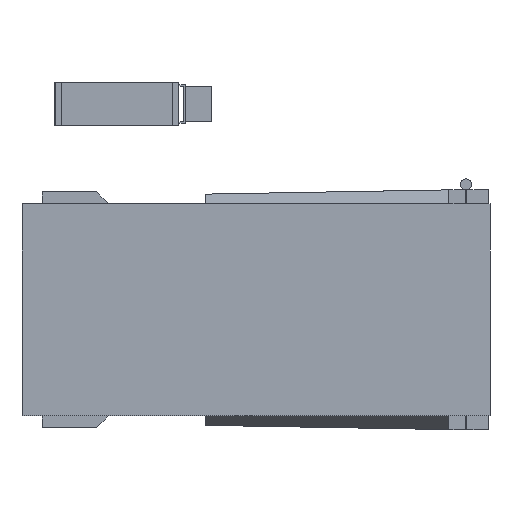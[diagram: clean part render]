
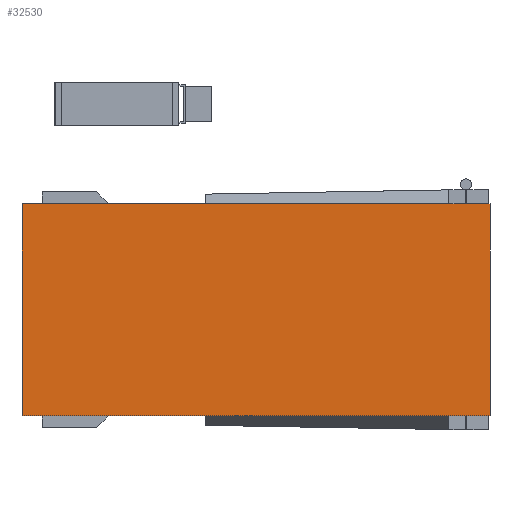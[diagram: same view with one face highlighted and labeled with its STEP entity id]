
A CAD part, front view. The second image highlights one B-rep face of the part: STEP entity #32530.
In plain terms, the highlighted planar face has unit normal (0, -1, 0).
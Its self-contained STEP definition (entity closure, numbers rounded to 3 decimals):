
#5617=DIRECTION('',(0.,0.,1.));
#5618=VECTOR('',#5617,77.25);
#5619=CARTESIAN_POINT('',(-85.344,0.,-38.625));
#5620=LINE('',#5619,#5618);
#5621=DIRECTION('',(1.,0.,0.));
#5622=VECTOR('',#5621,170.688);
#5623=CARTESIAN_POINT('',(-85.344,0.,38.625));
#5624=LINE('',#5623,#5622);
#5625=DIRECTION('',(0.,0.,-1.));
#5626=VECTOR('',#5625,77.25);
#5627=CARTESIAN_POINT('',(85.344,0.,38.625));
#5628=LINE('',#5627,#5626);
#5629=DIRECTION('',(-1.,0.,0.));
#5630=VECTOR('',#5629,170.688);
#5631=CARTESIAN_POINT('',(85.344,0.,-38.625));
#5632=LINE('',#5631,#5630);
#21862=CARTESIAN_POINT('',(-85.344,0.,-38.625));
#21863=CARTESIAN_POINT('',(-85.344,0.,38.625));
#21864=VERTEX_POINT('',#21862);
#21865=VERTEX_POINT('',#21863);
#21866=CARTESIAN_POINT('',(85.344,0.,38.625));
#21867=VERTEX_POINT('',#21866);
#21868=CARTESIAN_POINT('',(85.344,0.,-38.625));
#21869=VERTEX_POINT('',#21868);
#32518=CARTESIAN_POINT('',(0.,0.,0.));
#32519=DIRECTION('',(0.,1.,0.));
#32520=DIRECTION('',(1.,0.,0.));
#32521=AXIS2_PLACEMENT_3D('',#32518,#32519,#32520);
#32522=PLANE('',#32521);
#32523=ORIENTED_EDGE('',*,*,#32510,.T.);
#32524=ORIENTED_EDGE('',*,*,#32451,.T.);
#32526=ORIENTED_EDGE('',*,*,#32525,.T.);
#32527=ORIENTED_EDGE('',*,*,#32497,.T.);
#32528=EDGE_LOOP('',(#32523,#32524,#32526,#32527));
#32529=FACE_OUTER_BOUND('',#32528,.F.);
#32530=ADVANCED_FACE('',(#32529),#32522,.F.);
#32451=EDGE_CURVE('',#21865,#21867,#5624,.T.);
#32497=EDGE_CURVE('',#21869,#21864,#5632,.T.);
#32510=EDGE_CURVE('',#21864,#21865,#5620,.T.);
#32525=EDGE_CURVE('',#21867,#21869,#5628,.T.);
